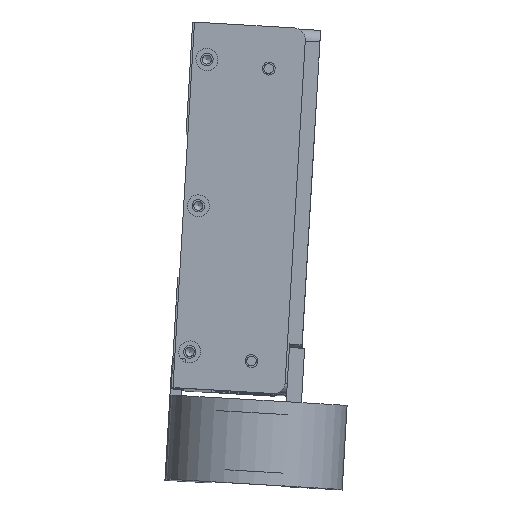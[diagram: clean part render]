
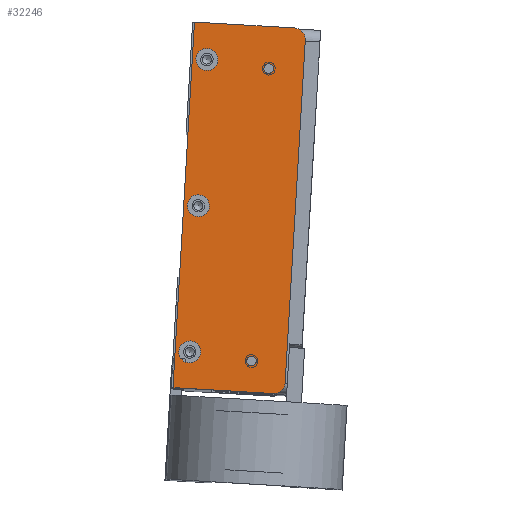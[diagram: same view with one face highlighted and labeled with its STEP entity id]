
A CAD part, top view. The second image highlights one B-rep face of the part: STEP entity #32246.
In plain terms, the highlighted planar face has unit normal (0, 0, 1) as drawn and (0, -1, 0) by its records, which use the part's own axes.
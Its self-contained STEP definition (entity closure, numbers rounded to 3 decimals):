
#952=PLANE($,#35138);
#2070=FACE_BOUND($,#5728,.T.);
#2071=FACE_BOUND($,#5729,.T.);
#2072=FACE_BOUND($,#5730,.T.);
#2073=FACE_BOUND($,#5731,.T.);
#2074=FACE_BOUND($,#5732,.T.);
#2075=FACE_BOUND($,#5733,.T.);
#5728=EDGE_LOOP($,(#26028));
#5729=EDGE_LOOP($,(#26029));
#5730=EDGE_LOOP($,(#26030));
#5731=EDGE_LOOP($,(#26031));
#5732=EDGE_LOOP($,(#26032));
#5733=EDGE_LOOP($,(#26033,#26034,#26035,#26036,#26037,#26038));
#8132=LINE($,#51648,#10941);
#8135=LINE($,#51664,#10944);
#8136=LINE($,#51666,#10945);
#8137=LINE($,#51668,#10946);
#10941=VECTOR($,#41564,93.65);
#10944=VECTOR($,#41579,27.325);
#10945=VECTOR($,#41580,100.);
#10946=VECTOR($,#41581,27.325);
#13666=CIRCLE($,#35135,3.175);
#13668=CIRCLE($,#35139,3.);
#13669=CIRCLE($,#35140,3.);
#13670=CIRCLE($,#35141,3.);
#13671=CIRCLE($,#35142,1.321);
#13672=CIRCLE($,#35143,1.321);
#13673=CIRCLE($,#35144,3.175);
#15653=VERTEX_POINT($,#51638);
#15654=VERTEX_POINT($,#51639);
#15657=VERTEX_POINT($,#51647);
#15659=VERTEX_POINT($,#51653);
#15660=VERTEX_POINT($,#51655);
#15661=VERTEX_POINT($,#51657);
#15662=VERTEX_POINT($,#51659);
#15663=VERTEX_POINT($,#51661);
#15664=VERTEX_POINT($,#51663);
#15665=VERTEX_POINT($,#51665);
#15666=VERTEX_POINT($,#51667);
#19421=EDGE_CURVE($,#15653,#15654,#13666,.T.);
#19425=EDGE_CURVE($,#15654,#15657,#8132,.T.);
#19428=EDGE_CURVE($,#15659,#15659,#13668,.T.);
#19429=EDGE_CURVE($,#15660,#15660,#13669,.T.);
#19430=EDGE_CURVE($,#15661,#15661,#13670,.T.);
#19431=EDGE_CURVE($,#15662,#15662,#13671,.T.);
#19432=EDGE_CURVE($,#15663,#15663,#13672,.T.);
#19433=EDGE_CURVE($,#15653,#15664,#8135,.T.);
#19434=EDGE_CURVE($,#15664,#15665,#8136,.T.);
#19435=EDGE_CURVE($,#15665,#15666,#8137,.T.);
#19436=EDGE_CURVE($,#15657,#15666,#13673,.T.);
#26028=ORIENTED_EDGE($,*,*,#19428,.T.);
#26029=ORIENTED_EDGE($,*,*,#19429,.T.);
#26030=ORIENTED_EDGE($,*,*,#19430,.T.);
#26031=ORIENTED_EDGE($,*,*,#19431,.T.);
#26032=ORIENTED_EDGE($,*,*,#19432,.T.);
#26033=ORIENTED_EDGE($,*,*,#19421,.F.);
#26034=ORIENTED_EDGE($,*,*,#19433,.T.);
#26035=ORIENTED_EDGE($,*,*,#19434,.T.);
#26036=ORIENTED_EDGE($,*,*,#19435,.T.);
#26037=ORIENTED_EDGE($,*,*,#19436,.F.);
#26038=ORIENTED_EDGE($,*,*,#19425,.F.);
#32246=ADVANCED_FACE($,(#2070,#2071,#2072,#2073,#2074,#2075),#952,.T.);
#35135=AXIS2_PLACEMENT_3D($,#51640,#41556,#41557);
#35138=AXIS2_PLACEMENT_3D($,#51652,#41567,#41568);
#35139=AXIS2_PLACEMENT_3D($,#51654,#41569,#41570);
#35140=AXIS2_PLACEMENT_3D($,#51656,#41571,#41572);
#35141=AXIS2_PLACEMENT_3D($,#51658,#41573,#41574);
#35142=AXIS2_PLACEMENT_3D($,#51660,#41575,#41576);
#35143=AXIS2_PLACEMENT_3D($,#51662,#41577,#41578);
#35144=AXIS2_PLACEMENT_3D($,#51669,#41582,#41583);
#41556=DIRECTION('center_axis',(0.,1.,0.));
#41557=DIRECTION('ref_axis',(0.707,0.,0.707));
#41564=DIRECTION($,(0.,0.,-1.));
#41567=DIRECTION('center_axis',(0.,-1.,0.));
#41568=DIRECTION('ref_axis',(0.,0.,-1.));
#41569=DIRECTION('center_axis',(0.,1.,0.));
#41570=DIRECTION('ref_axis',(1.,0.,0.));
#41571=DIRECTION('center_axis',(0.,1.,0.));
#41572=DIRECTION('ref_axis',(1.,0.,0.));
#41573=DIRECTION('center_axis',(0.,1.,0.));
#41574=DIRECTION('ref_axis',(1.,0.,0.));
#41575=DIRECTION('center_axis',(0.,1.,0.));
#41576=DIRECTION('ref_axis',(1.,0.,0.));
#41577=DIRECTION('center_axis',(0.,1.,0.));
#41578=DIRECTION('ref_axis',(1.,0.,0.));
#41579=DIRECTION($,(-1.,0.,0.));
#41580=DIRECTION($,(0.,0.,-1.));
#41581=DIRECTION($,(1.,0.,0.));
#41582=DIRECTION('center_axis',(0.,1.,0.));
#41583=DIRECTION('ref_axis',(0.707,0.,-0.707));
#51638=CARTESIAN_POINT('',(12.075,-2.5,50.));
#51639=CARTESIAN_POINT('',(15.25,-2.5,46.825));
#51640=CARTESIAN_POINT('Origin',(12.075,-2.5,46.825));
#51647=CARTESIAN_POINT('',(15.25,-2.5,-46.825));
#51648=CARTESIAN_POINT($,(15.25,-2.5,0.));
#51652=CARTESIAN_POINT('Origin',(15.25,-2.5,0.));
#51653=CARTESIAN_POINT('',(-8.25,-2.5,0.));
#51654=CARTESIAN_POINT('Origin',(-11.25,-2.5,0.));
#51655=CARTESIAN_POINT('',(-8.25,-2.5,40.));
#51656=CARTESIAN_POINT('Origin',(-11.25,-2.5,40.));
#51657=CARTESIAN_POINT('',(-8.25,-2.5,-40.));
#51658=CARTESIAN_POINT('Origin',(-11.25,-2.5,-40.));
#51659=CARTESIAN_POINT('',(7.071,-2.5,38.5));
#51660=CARTESIAN_POINT('Origin',(5.75,-2.5,38.5));
#51661=CARTESIAN_POINT('',(7.037,-2.5,-41.5));
#51662=CARTESIAN_POINT('Origin',(5.716,-2.5,-41.5));
#51663=CARTESIAN_POINT('',(-15.25,-2.5,50.));
#51664=CARTESIAN_POINT($,(15.25,-2.5,50.));
#51665=CARTESIAN_POINT('',(-15.25,-2.5,-50.));
#51666=CARTESIAN_POINT($,(-15.25,-2.5,0.));
#51667=CARTESIAN_POINT('',(12.075,-2.5,-50.));
#51668=CARTESIAN_POINT($,(15.25,-2.5,-50.));
#51669=CARTESIAN_POINT('Origin',(12.075,-2.5,-46.825));
